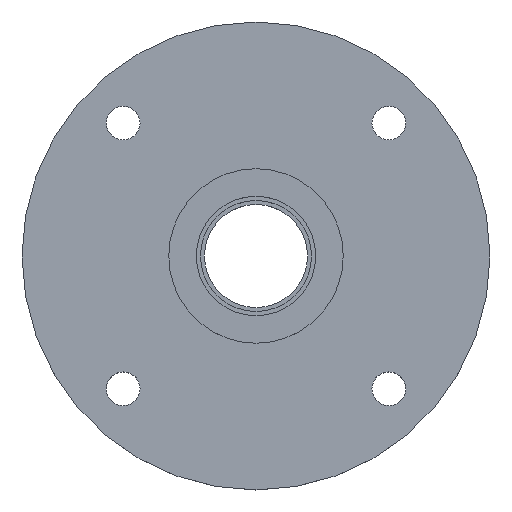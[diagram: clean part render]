
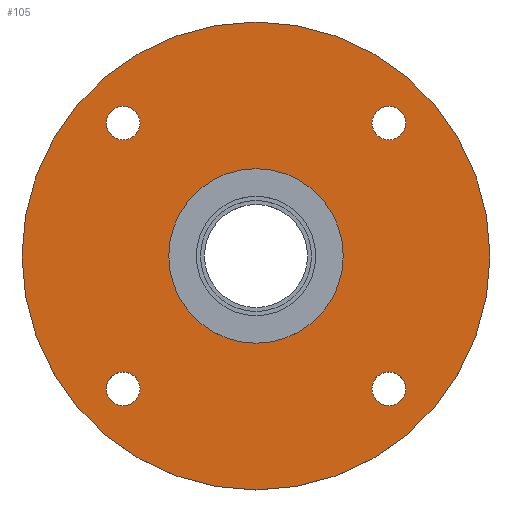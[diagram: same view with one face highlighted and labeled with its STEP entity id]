
A CAD part, top view. The second image highlights one B-rep face of the part: STEP entity #105.
In plain terms, the highlighted planar face has unit normal (0, 0, 1).
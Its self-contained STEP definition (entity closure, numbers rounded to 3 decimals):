
#21 = EDGE_CURVE('',#22,#22,#24,.T.);
#22 = VERTEX_POINT('',#23);
#23 = CARTESIAN_POINT('',(11.8,0.,1.2));
#24 = SURFACE_CURVE('',#25,(#30,#42),.PCURVE_S1.);
#25 = CIRCLE('',#26,11.8);
#26 = AXIS2_PLACEMENT_3D('',#27,#28,#29);
#27 = CARTESIAN_POINT('',(0.,0.,1.2));
#28 = DIRECTION('',(0.,0.,1.));
#29 = DIRECTION('',(1.,0.,-0.));
#30 = PCURVE('',#31,#36);
#31 = CYLINDRICAL_SURFACE('',#32,11.8);
#32 = AXIS2_PLACEMENT_3D('',#33,#34,#35);
#33 = CARTESIAN_POINT('',(0.,0.,0.));
#34 = DIRECTION('',(0.,0.,1.));
#35 = DIRECTION('',(1.,0.,-0.));
#36 = DEFINITIONAL_REPRESENTATION('',(#37),#41);
#37 = LINE('',#38,#39);
#38 = CARTESIAN_POINT('',(0.,1.2));
#39 = VECTOR('',#40,1.);
#40 = DIRECTION('',(1.,0.));
#41 = ( GEOMETRIC_REPRESENTATION_CONTEXT(2) 
PARAMETRIC_REPRESENTATION_CONTEXT() REPRESENTATION_CONTEXT('2D SPACE',''
  ) );
#42 = PCURVE('',#43,#48);
#43 = PLANE('',#44);
#44 = AXIS2_PLACEMENT_3D('',#45,#46,#47);
#45 = CARTESIAN_POINT('',(0.,0.,1.2));
#46 = DIRECTION('',(0.,0.,1.));
#47 = DIRECTION('',(1.,0.,-0.));
#48 = DEFINITIONAL_REPRESENTATION('',(#49),#53);
#49 = CIRCLE('',#50,11.8);
#50 = AXIS2_PLACEMENT_2D('',#51,#52);
#51 = CARTESIAN_POINT('',(0.,0.));
#52 = DIRECTION('',(1.,0.));
#53 = ( GEOMETRIC_REPRESENTATION_CONTEXT(2) 
PARAMETRIC_REPRESENTATION_CONTEXT() REPRESENTATION_CONTEXT('2D SPACE',''
  ) );
#105 = ADVANCED_FACE('',(#106,#109,#140,#171,#202,#233),#43,.T.);
#106 = FACE_BOUND('',#107,.T.);
#107 = EDGE_LOOP('',(#108));
#108 = ORIENTED_EDGE('',*,*,#21,.T.);
#109 = FACE_BOUND('',#110,.T.);
#110 = EDGE_LOOP('',(#111));
#111 = ORIENTED_EDGE('',*,*,#112,.F.);
#112 = EDGE_CURVE('',#113,#113,#115,.T.);
#113 = VERTEX_POINT('',#114);
#114 = CARTESIAN_POINT('',(-5.85,-6.7,1.2));
#115 = SURFACE_CURVE('',#116,(#121,#128),.PCURVE_S1.);
#116 = CIRCLE('',#117,0.85);
#117 = AXIS2_PLACEMENT_3D('',#118,#119,#120);
#118 = CARTESIAN_POINT('',(-6.7,-6.7,1.2));
#119 = DIRECTION('',(0.,0.,1.));
#120 = DIRECTION('',(1.,0.,-0.));
#121 = PCURVE('',#43,#122);
#122 = DEFINITIONAL_REPRESENTATION('',(#123),#127);
#123 = CIRCLE('',#124,0.85);
#124 = AXIS2_PLACEMENT_2D('',#125,#126);
#125 = CARTESIAN_POINT('',(-6.7,-6.7));
#126 = DIRECTION('',(1.,0.));
#127 = ( GEOMETRIC_REPRESENTATION_CONTEXT(2) 
PARAMETRIC_REPRESENTATION_CONTEXT() REPRESENTATION_CONTEXT('2D SPACE',''
  ) );
#128 = PCURVE('',#129,#134);
#129 = CYLINDRICAL_SURFACE('',#130,0.85);
#130 = AXIS2_PLACEMENT_3D('',#131,#132,#133);
#131 = CARTESIAN_POINT('',(-6.7,-6.7,-0.01));
#132 = DIRECTION('',(0.,0.,1.));
#133 = DIRECTION('',(1.,0.,-0.));
#134 = DEFINITIONAL_REPRESENTATION('',(#135),#139);
#135 = LINE('',#136,#137);
#136 = CARTESIAN_POINT('',(0.,1.21));
#137 = VECTOR('',#138,1.);
#138 = DIRECTION('',(1.,0.));
#139 = ( GEOMETRIC_REPRESENTATION_CONTEXT(2) 
PARAMETRIC_REPRESENTATION_CONTEXT() REPRESENTATION_CONTEXT('2D SPACE',''
  ) );
#140 = FACE_BOUND('',#141,.T.);
#141 = EDGE_LOOP('',(#142));
#142 = ORIENTED_EDGE('',*,*,#143,.F.);
#143 = EDGE_CURVE('',#144,#144,#146,.T.);
#144 = VERTEX_POINT('',#145);
#145 = CARTESIAN_POINT('',(7.55,-6.7,1.2));
#146 = SURFACE_CURVE('',#147,(#152,#159),.PCURVE_S1.);
#147 = CIRCLE('',#148,0.85);
#148 = AXIS2_PLACEMENT_3D('',#149,#150,#151);
#149 = CARTESIAN_POINT('',(6.7,-6.7,1.2));
#150 = DIRECTION('',(0.,0.,1.));
#151 = DIRECTION('',(1.,0.,-0.));
#152 = PCURVE('',#43,#153);
#153 = DEFINITIONAL_REPRESENTATION('',(#154),#158);
#154 = CIRCLE('',#155,0.85);
#155 = AXIS2_PLACEMENT_2D('',#156,#157);
#156 = CARTESIAN_POINT('',(6.7,-6.7));
#157 = DIRECTION('',(1.,0.));
#158 = ( GEOMETRIC_REPRESENTATION_CONTEXT(2) 
PARAMETRIC_REPRESENTATION_CONTEXT() REPRESENTATION_CONTEXT('2D SPACE',''
  ) );
#159 = PCURVE('',#160,#165);
#160 = CYLINDRICAL_SURFACE('',#161,0.85);
#161 = AXIS2_PLACEMENT_3D('',#162,#163,#164);
#162 = CARTESIAN_POINT('',(6.7,-6.7,-0.01));
#163 = DIRECTION('',(0.,0.,1.));
#164 = DIRECTION('',(1.,0.,-0.));
#165 = DEFINITIONAL_REPRESENTATION('',(#166),#170);
#166 = LINE('',#167,#168);
#167 = CARTESIAN_POINT('',(0.,1.21));
#168 = VECTOR('',#169,1.);
#169 = DIRECTION('',(1.,0.));
#170 = ( GEOMETRIC_REPRESENTATION_CONTEXT(2) 
PARAMETRIC_REPRESENTATION_CONTEXT() REPRESENTATION_CONTEXT('2D SPACE',''
  ) );
#171 = FACE_BOUND('',#172,.T.);
#172 = EDGE_LOOP('',(#173));
#173 = ORIENTED_EDGE('',*,*,#174,.F.);
#174 = EDGE_CURVE('',#175,#175,#177,.T.);
#175 = VERTEX_POINT('',#176);
#176 = CARTESIAN_POINT('',(-5.85,6.7,1.2));
#177 = SURFACE_CURVE('',#178,(#183,#190),.PCURVE_S1.);
#178 = CIRCLE('',#179,0.85);
#179 = AXIS2_PLACEMENT_3D('',#180,#181,#182);
#180 = CARTESIAN_POINT('',(-6.7,6.7,1.2));
#181 = DIRECTION('',(0.,0.,1.));
#182 = DIRECTION('',(1.,0.,-0.));
#183 = PCURVE('',#43,#184);
#184 = DEFINITIONAL_REPRESENTATION('',(#185),#189);
#185 = CIRCLE('',#186,0.85);
#186 = AXIS2_PLACEMENT_2D('',#187,#188);
#187 = CARTESIAN_POINT('',(-6.7,6.7));
#188 = DIRECTION('',(1.,0.));
#189 = ( GEOMETRIC_REPRESENTATION_CONTEXT(2) 
PARAMETRIC_REPRESENTATION_CONTEXT() REPRESENTATION_CONTEXT('2D SPACE',''
  ) );
#190 = PCURVE('',#191,#196);
#191 = CYLINDRICAL_SURFACE('',#192,0.85);
#192 = AXIS2_PLACEMENT_3D('',#193,#194,#195);
#193 = CARTESIAN_POINT('',(-6.7,6.7,-0.01));
#194 = DIRECTION('',(0.,0.,1.));
#195 = DIRECTION('',(1.,0.,-0.));
#196 = DEFINITIONAL_REPRESENTATION('',(#197),#201);
#197 = LINE('',#198,#199);
#198 = CARTESIAN_POINT('',(0.,1.21));
#199 = VECTOR('',#200,1.);
#200 = DIRECTION('',(1.,0.));
#201 = ( GEOMETRIC_REPRESENTATION_CONTEXT(2) 
PARAMETRIC_REPRESENTATION_CONTEXT() REPRESENTATION_CONTEXT('2D SPACE',''
  ) );
#202 = FACE_BOUND('',#203,.T.);
#203 = EDGE_LOOP('',(#204));
#204 = ORIENTED_EDGE('',*,*,#205,.F.);
#205 = EDGE_CURVE('',#206,#206,#208,.T.);
#206 = VERTEX_POINT('',#207);
#207 = CARTESIAN_POINT('',(4.4,0.,1.2));
#208 = SURFACE_CURVE('',#209,(#214,#221),.PCURVE_S1.);
#209 = CIRCLE('',#210,4.4);
#210 = AXIS2_PLACEMENT_3D('',#211,#212,#213);
#211 = CARTESIAN_POINT('',(0.,0.,1.2));
#212 = DIRECTION('',(0.,0.,1.));
#213 = DIRECTION('',(1.,0.,-0.));
#214 = PCURVE('',#43,#215);
#215 = DEFINITIONAL_REPRESENTATION('',(#216),#220);
#216 = CIRCLE('',#217,4.4);
#217 = AXIS2_PLACEMENT_2D('',#218,#219);
#218 = CARTESIAN_POINT('',(0.,0.));
#219 = DIRECTION('',(1.,0.));
#220 = ( GEOMETRIC_REPRESENTATION_CONTEXT(2) 
PARAMETRIC_REPRESENTATION_CONTEXT() REPRESENTATION_CONTEXT('2D SPACE',''
  ) );
#221 = PCURVE('',#222,#227);
#222 = CYLINDRICAL_SURFACE('',#223,4.4);
#223 = AXIS2_PLACEMENT_3D('',#224,#225,#226);
#224 = CARTESIAN_POINT('',(0.,0.,1.2));
#225 = DIRECTION('',(0.,0.,1.));
#226 = DIRECTION('',(1.,0.,-0.));
#227 = DEFINITIONAL_REPRESENTATION('',(#228),#232);
#228 = LINE('',#229,#230);
#229 = CARTESIAN_POINT('',(0.,0.));
#230 = VECTOR('',#231,1.);
#231 = DIRECTION('',(1.,0.));
#232 = ( GEOMETRIC_REPRESENTATION_CONTEXT(2) 
PARAMETRIC_REPRESENTATION_CONTEXT() REPRESENTATION_CONTEXT('2D SPACE',''
  ) );
#233 = FACE_BOUND('',#234,.T.);
#234 = EDGE_LOOP('',(#235));
#235 = ORIENTED_EDGE('',*,*,#236,.F.);
#236 = EDGE_CURVE('',#237,#237,#239,.T.);
#237 = VERTEX_POINT('',#238);
#238 = CARTESIAN_POINT('',(7.55,6.7,1.2));
#239 = SURFACE_CURVE('',#240,(#245,#252),.PCURVE_S1.);
#240 = CIRCLE('',#241,0.85);
#241 = AXIS2_PLACEMENT_3D('',#242,#243,#244);
#242 = CARTESIAN_POINT('',(6.7,6.7,1.2));
#243 = DIRECTION('',(0.,0.,1.));
#244 = DIRECTION('',(1.,0.,-0.));
#245 = PCURVE('',#43,#246);
#246 = DEFINITIONAL_REPRESENTATION('',(#247),#251);
#247 = CIRCLE('',#248,0.85);
#248 = AXIS2_PLACEMENT_2D('',#249,#250);
#249 = CARTESIAN_POINT('',(6.7,6.7));
#250 = DIRECTION('',(1.,0.));
#251 = ( GEOMETRIC_REPRESENTATION_CONTEXT(2) 
PARAMETRIC_REPRESENTATION_CONTEXT() REPRESENTATION_CONTEXT('2D SPACE',''
  ) );
#252 = PCURVE('',#253,#258);
#253 = CYLINDRICAL_SURFACE('',#254,0.85);
#254 = AXIS2_PLACEMENT_3D('',#255,#256,#257);
#255 = CARTESIAN_POINT('',(6.7,6.7,-0.01));
#256 = DIRECTION('',(0.,0.,1.));
#257 = DIRECTION('',(1.,0.,-0.));
#258 = DEFINITIONAL_REPRESENTATION('',(#259),#263);
#259 = LINE('',#260,#261);
#260 = CARTESIAN_POINT('',(0.,1.21));
#261 = VECTOR('',#262,1.);
#262 = DIRECTION('',(1.,0.));
#263 = ( GEOMETRIC_REPRESENTATION_CONTEXT(2) 
PARAMETRIC_REPRESENTATION_CONTEXT() REPRESENTATION_CONTEXT('2D SPACE',''
  ) );
